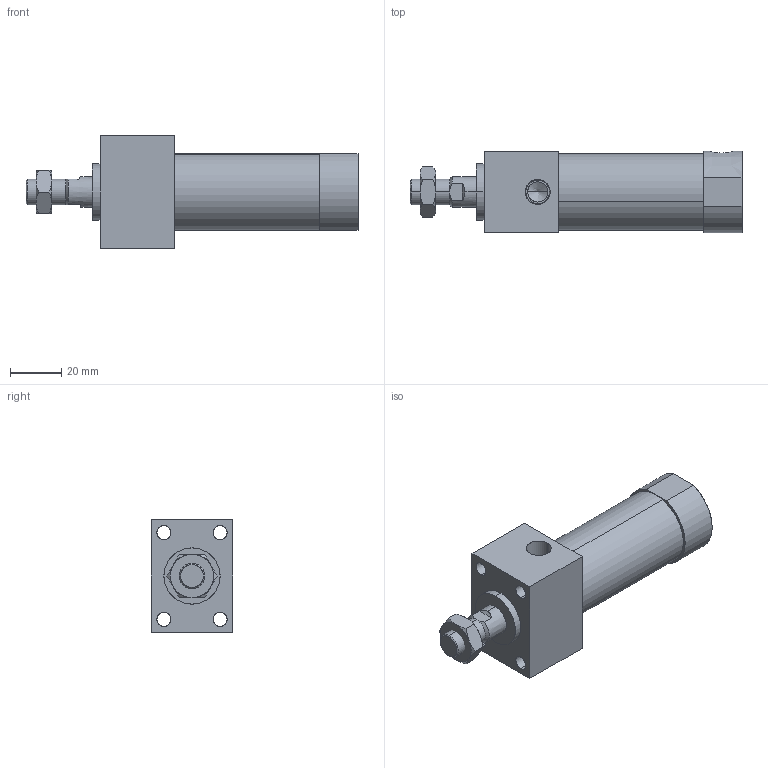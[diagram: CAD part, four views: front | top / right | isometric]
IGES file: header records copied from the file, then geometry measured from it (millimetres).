
Start section: SolidWorks IGES file using analytic representation for surfaces
Global section: file name: C:\Users\Toshiba\Desktop\JGEF2-25-25.IGS; native system: SolidWorks 2014; preprocessor: SolidWorks 2014; author: Toshiba; date: 160420.150506; units: millimetre
Bounding box: 130 x 32 x 44 mm (x, y, z)
Surface area: 21825.5 mm2 (no closed solid volume)
Topology: 0 solids, 0 shells, 83 faces, 1540 edges, 1534 vertices
Faces by surface type: revolution 42, bspline 41
